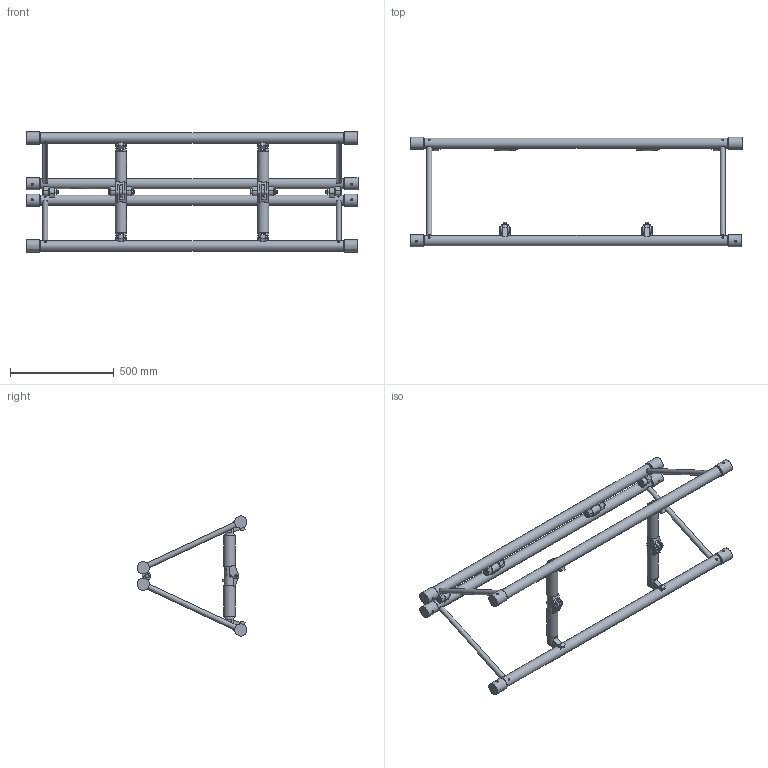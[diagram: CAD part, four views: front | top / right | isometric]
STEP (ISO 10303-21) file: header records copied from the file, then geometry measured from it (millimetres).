
FILE_DESCRIPTION(/* description */ (''),/* implementation_level */ '2;1');
FILE_NAME(/* name */ 'M:\Symbolen_NIEUW\STP\52-er truss\S52F\S52F-L160_111110086.stp',/* time_stamp */ '2017-11-10T14:24:08+01:00',/* author */ ('Kees'),/* organization */ (''),/* preprocessor_version */ 'ST-DEVELOPER v16.13',/* originating_system */ 'Autodesk Inventor 2018',/* authorisation */ '');
FILE_SCHEMA (('AUTOMOTIVE_DESIGN { 1 0 10303 214 3 1 1 }'));
Length unit declared in the file: millimetre
Products named in the file (1): 260008529
Bounding box: 1600 x 528.69 x 578.8 mm (x, y, z)
Volume: 16379748.9 mm3; surface area: 1572993.7 mm2
Topology: 33 solids, 33 shells, 710 faces, 1730 edges, 1132 vertices
Faces by surface type: plane 434, cylinder 200, cone 76
Full cylindrical faces by diameter (mm): 10 x8, 12 x16, 12.5 x10, 12.8 x8, 13 x14, 17.4 x8, 24 x6, 25 x4, 50 x8, 54 x4, 58.8 x8
Entity records: 21714 total; most frequent: CARTESIAN_POINT 5235, DIRECTION 3236, ORIENTED_EDGE 3108, EDGE_CURVE 1554, AXIS2_PLACEMENT_3D 1213, VERTEX_POINT 1104, EDGE_LOOP 982, LINE 810
